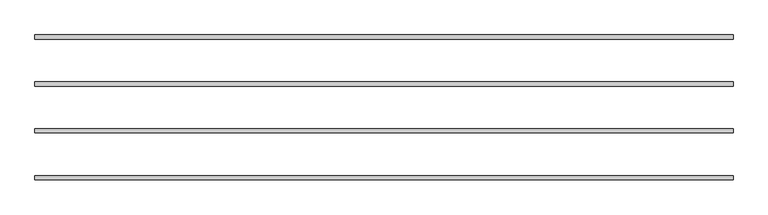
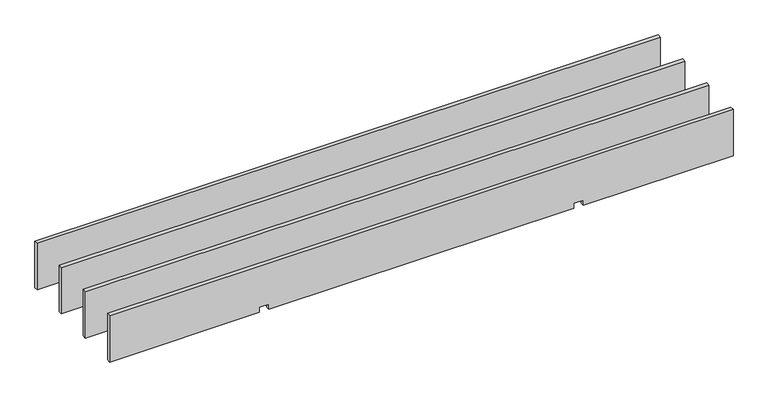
"""IFC4 building model written with IfcOpenShell, lengths in millimetres: proxy geometry."""

from ifc_helpers import new_model, si_unit, frame, origin, place, context, project, spatial, polyline, outline, extrude, source, transform, mapped, element, save


def specialty_equipment_c981e245(model_context):
    return source(origin(), model_context, "Body", "SweptSolid", [
        extrude(outline(polyline([(238.125, -1511.3), (0.0, -1511.3), (0.0, -784.9266291), (25.4635, -784.9266291), (25.4635, -739.0733709), (0.0, -739.0733709), (0.0, 739.0733709), (25.4635, 739.0733709), (25.4635, 784.9266291), (0.0, 784.9266291), (0.0, 1511.3), (238.125, 1511.3), (238.125, -1511.3)])), frame((0.0, 600.59951, 0.0), z_axis=(0.0, 1.0, 0.0), x_axis=(0.0, 0.0, 1.0)), (0.0, 0.0, 1.0), 18.00098),
        extrude(outline(polyline([(238.125, -1511.3), (0.0, -1511.3), (0.0, -784.9266291), (25.4635, -784.9266291), (25.4635, -739.0733709), (0.0, -739.0733709), (0.0, 739.0733709), (25.4635, 739.0733709), (25.4635, 784.9266291), (0.0, 784.9266291), (0.0, 1511.3), (238.125, 1511.3), (238.125, -1511.3)])), frame((0.0, 397.39951, 0.0), z_axis=(0.0, 1.0, 0.0), x_axis=(0.0, 0.0, 1.0)), (0.0, 0.0, 1.0), 18.00098),
        extrude(outline(polyline([(238.125, -1511.3), (0.0, -1511.3), (0.0, -784.9266291), (25.4635, -784.9266291), (25.4635, -739.0733709), (0.0, -739.0733709), (0.0, 739.0733709), (25.4635, 739.0733709), (25.4635, 784.9266291), (0.0, 784.9266291), (0.0, 1511.3), (238.125, 1511.3), (238.125, -1511.3)])), frame((0.0, 194.19951, 0.0), z_axis=(0.0, 1.0, 0.0), x_axis=(0.0, 0.0, 1.0)), (0.0, 0.0, 1.0), 18.00098),
        extrude(outline(polyline([(238.125, -1511.3), (0.0, -1511.3), (0.0, -784.9266291), (25.4635, -784.9266291), (25.4635, -739.0733709), (0.0, -739.0733709), (0.0, 739.0733709), (25.4635, 739.0733709), (25.4635, 784.9266291), (0.0, 784.9266291), (0.0, 1511.3), (238.125, 1511.3), (238.125, -1511.3)])), frame((0.0, -9.00049, 0.0), z_axis=(0.0, 1.0, 0.0), x_axis=(0.0, 0.0, 1.0)), (0.0, 0.0, 1.0), 18.00098),
    ])


if __name__ == "__main__":
    model = new_model("IFC4")
    model_context = context("Model", 3, world=origin())
    ifc_project = project(units=[si_unit("LENGTHUNIT", "METRE", prefix="MILLI")], contexts=[model_context])
    site = spatial("IfcSite", under=ifc_project)
    building = spatial("IfcBuilding", under=site)
    placement = place(None, origin())
    specialty_equipment_shape = specialty_equipment_c981e245(model_context)
    element("IfcBuildingElementProxy", 1, Name="SE_TIMBER BAFFLE_MULTI-SYSTEM_FB_TURF : 119\" - FELTLOCK", ObjectType="SE_TIMBER BAFFLE_MULTI-SYSTEM_FB_TURF : 119\" - FELTLOCK", at=placement, inside=building, context=model_context, shape_type="MappedRepresentation", body=[
        mapped(specialty_equipment_shape, transform((0.0, 0.0, 0.0), x_axis=(1.0, 0.0, 0.0), y_axis=(0.0, 1.0, 0.0), z_axis=(0.0, 0.0, 1.0))),
    ])
    save(model, "model.ifc")
